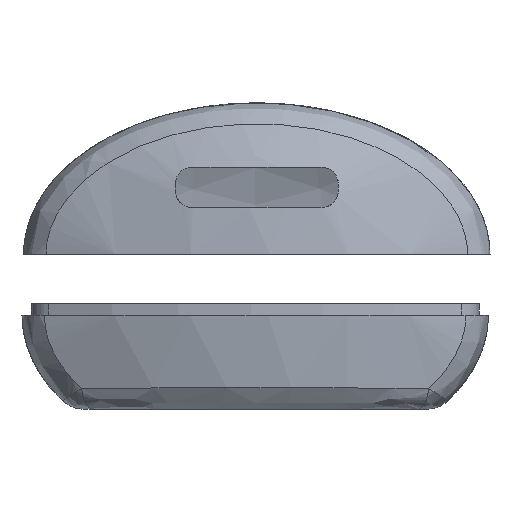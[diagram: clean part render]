
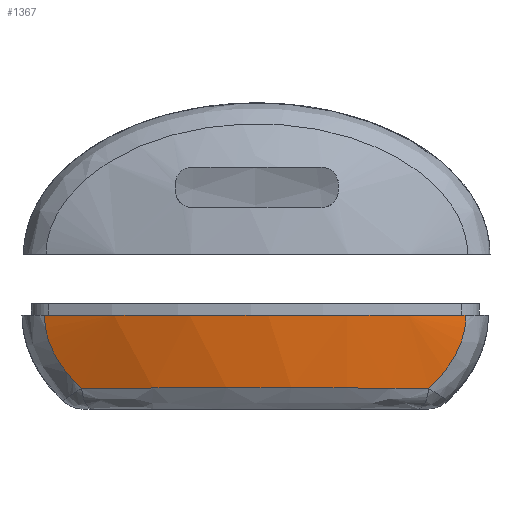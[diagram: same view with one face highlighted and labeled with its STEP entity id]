
A CAD part, front view. The second image highlights one B-rep face of the part: STEP entity #1367.
In plain terms, the highlighted free-form (B-spline) face has degree [2, 2] with [3, 4] control points.
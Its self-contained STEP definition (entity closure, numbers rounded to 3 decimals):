
#99=FACE_OUTER_BOUND('',#1824,.T.);
#1229=(
BOUNDED_SURFACE()
B_SPLINE_SURFACE(2,2,((#10059,#10060,#10061,#10062),(#10063,#10064,#10065,
#10066),(#10067,#10068,#10069,#10070)),.UNSPECIFIED.,.F.,.F.,.F.)
B_SPLINE_SURFACE_WITH_KNOTS((3,3),(3,1,3),(0.,1.),(0.,0.5,1.),
 .UNSPECIFIED.)
GEOMETRIC_REPRESENTATION_ITEM()
RATIONAL_B_SPLINE_SURFACE(((0.293,0.283,0.283,
0.293),(0.225,0.217,0.217,
0.225),(0.293,0.283,0.283,
0.293)))
REPRESENTATION_ITEM('')
SURFACE()
);
#1271=(
BOUNDED_CURVE()
B_SPLINE_CURVE(2,(#9835,#9836,#9837),.UNSPECIFIED.,.F.,.F.)
B_SPLINE_CURVE_WITH_KNOTS((3,3),(0.,1.),.UNSPECIFIED.)
CURVE()
GEOMETRIC_REPRESENTATION_ITEM()
RATIONAL_B_SPLINE_CURVE((0.278,0.245,0.27))
REPRESENTATION_ITEM('')
);
#1367=ADVANCED_FACE('',(#99),#1229,.T.);
#1824=EDGE_LOOP('',(#2457,#2458,#2459,#2460));
#2457=ORIENTED_EDGE('',*,*,#4067,.T.);
#2458=ORIENTED_EDGE('',*,*,#4068,.T.);
#2459=ORIENTED_EDGE('',*,*,#4069,.T.);
#2460=ORIENTED_EDGE('',*,*,#4013,.F.);
#3509=VERTEX_POINT('',#9834);
#3510=VERTEX_POINT('',#9838);
#3557=VERTEX_POINT('',#10041);
#3558=VERTEX_POINT('',#10048);
#4013=EDGE_CURVE('',#3509,#3510,#1271,.T.);
#4067=EDGE_CURVE('',#3509,#3557,#4571,.T.);
#4068=EDGE_CURVE('',#3557,#3558,#4572,.T.);
#4069=EDGE_CURVE('',#3558,#3510,#4573,.T.);
#4571=B_SPLINE_CURVE_WITH_KNOTS('',3,(#10031,#10032,#10033,#10034,#10035,
#10036,#10037,#10038,#10039,#10040),.UNSPECIFIED.,.F.,.F.,(4,2,2,2,4),(0.,
0.25,0.375,0.5,1.),.UNSPECIFIED.);
#4572=B_SPLINE_CURVE_WITH_KNOTS('',3,(#10042,#10043,#10044,#10045,#10046,
#10047),.UNSPECIFIED.,.F.,.F.,(4,2,4),(0.,0.5,1.),.UNSPECIFIED.);
#4573=B_SPLINE_CURVE_WITH_KNOTS('',3,(#10049,#10050,#10051,#10052,#10053,
#10054,#10055,#10056,#10057,#10058),.UNSPECIFIED.,.F.,.F.,(4,2,2,2,4),(0.,
0.25,0.375,0.5,1.),.UNSPECIFIED.);
#9834=CARTESIAN_POINT('',(-18.222,-30.68,-5.215));
#9835=CARTESIAN_POINT('',(-18.222,-30.68,-5.215));
#9836=CARTESIAN_POINT('',(-0.14,-39.844,-5.215));
#9837=CARTESIAN_POINT('',(17.943,-30.68,-5.215));
#9838=CARTESIAN_POINT('',(17.943,-30.68,-5.215));
#10031=CARTESIAN_POINT('',(-18.222,-30.68,-5.215));
#10032=CARTESIAN_POINT('',(-18.222,-30.68,-5.807));
#10033=CARTESIAN_POINT('',(-18.13,-30.695,-6.434));
#10034=CARTESIAN_POINT('',(-17.894,-30.732,-7.291));
#10035=CARTESIAN_POINT('',(-17.797,-30.746,-7.573));
#10036=CARTESIAN_POINT('',(-17.57,-30.78,-8.132));
#10037=CARTESIAN_POINT('',(-17.422,-30.802,-8.438));
#10038=CARTESIAN_POINT('',(-16.754,-30.899,-9.662));
#10039=CARTESIAN_POINT('',(-16.008,-31.003,-10.597));
#10040=CARTESIAN_POINT('',(-15.026,-31.126,-11.487));
#10041=CARTESIAN_POINT('',(-15.026,-31.126,-11.487));
#10042=CARTESIAN_POINT('',(-15.026,-31.126,-11.487));
#10043=CARTESIAN_POINT('',(-10.884,-32.884,-11.457));
#10044=CARTESIAN_POINT('',(-5.797,-34.144,-11.438));
#10045=CARTESIAN_POINT('',(5.518,-34.144,-11.438));
#10046=CARTESIAN_POINT('',(10.604,-32.884,-11.457));
#10047=CARTESIAN_POINT('',(14.747,-31.126,-11.487));
#10048=CARTESIAN_POINT('',(14.747,-31.126,-11.487));
#10049=CARTESIAN_POINT('',(14.747,-31.126,-11.487));
#10050=CARTESIAN_POINT('',(15.235,-31.065,-11.045));
#10051=CARTESIAN_POINT('',(15.666,-31.008,-10.59));
#10052=CARTESIAN_POINT('',(16.229,-30.932,-9.891));
#10053=CARTESIAN_POINT('',(16.402,-30.908,-9.655));
#10054=CARTESIAN_POINT('',(16.723,-30.863,-9.178));
#10055=CARTESIAN_POINT('',(16.846,-30.845,-8.98));
#10056=CARTESIAN_POINT('',(17.635,-30.73,-7.54));
#10057=CARTESIAN_POINT('',(17.943,-30.68,-6.396));
#10058=CARTESIAN_POINT('',(17.943,-30.68,-5.215));
#10059=CARTESIAN_POINT('',(27.404,-24.006,-5.215));
#10060=CARTESIAN_POINT('',(27.404,-24.006,-7.511));
#10061=CARTESIAN_POINT('',(27.404,-22.316,-11.781));
#10062=CARTESIAN_POINT('',(27.404,-20.745,-13.455));
#10063=CARTESIAN_POINT('',(3.189,-47.,-5.215));
#10064=CARTESIAN_POINT('',(3.189,-47.,-11.897));
#10065=CARTESIAN_POINT('',(3.189,-42.082,-24.321));
#10066=CARTESIAN_POINT('',(3.189,-37.509,-29.193));
#10067=CARTESIAN_POINT('',(-23.76,-27.281,-5.215));
#10068=CARTESIAN_POINT('',(-23.76,-27.281,-8.136));
#10069=CARTESIAN_POINT('',(-23.76,-25.131,-13.567));
#10070=CARTESIAN_POINT('',(-23.76,-23.132,-15.696));
